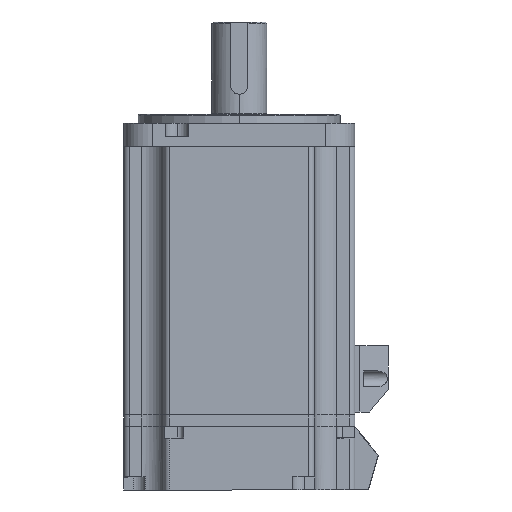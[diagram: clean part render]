
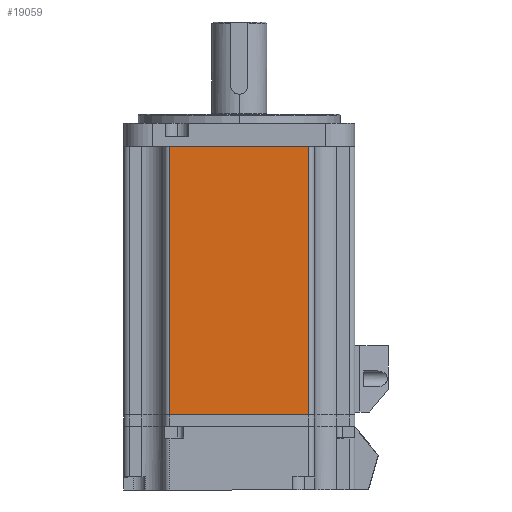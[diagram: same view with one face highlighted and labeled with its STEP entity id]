
A CAD part, left-side view. The second image highlights one B-rep face of the part: STEP entity #19059.
In plain terms, the highlighted planar face has unit normal (-1, 0, 0) as drawn and (1, 0, 0) by its records, which use the part's own axes.
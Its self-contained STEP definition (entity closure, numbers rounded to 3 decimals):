
#45 = DIRECTION ( 'NONE',  ( -1., 0., 0. ) ) ;
#289 = ORIENTED_EDGE ( 'NONE', *, *, #19615, .F. ) ;
#584 = CARTESIAN_POINT ( 'NONE',  ( 40., 93., 24. ) ) ;
#1748 = FACE_OUTER_BOUND ( 'NONE', #17727, .T. ) ;
#2135 = VECTOR ( 'NONE', #9735, 1000. ) ;
#2346 = ORIENTED_EDGE ( 'NONE', *, *, #13956, .T. ) ;
#2833 = CARTESIAN_POINT ( 'NONE',  ( 40., 93., -24. ) ) ;
#3254 = EDGE_CURVE ( 'NONE', #9387, #14978, #9504, .T. ) ;
#3778 = DIRECTION ( 'NONE',  ( 0., 0., 1. ) ) ;
#4850 = CARTESIAN_POINT ( 'NONE',  ( 40., 93., 24. ) ) ;
#5170 = ORIENTED_EDGE ( 'NONE', *, *, #3254, .T. ) ;
#5476 = CARTESIAN_POINT ( 'NONE',  ( 40., 93., 24. ) ) ;
#5478 = ORIENTED_EDGE ( 'NONE', *, *, #18719, .F. ) ;
#6785 = LINE ( 'NONE', #14002, #14025 ) ;
#7591 = CARTESIAN_POINT ( 'NONE',  ( 40., 0., 24. ) ) ;
#8999 = AXIS2_PLACEMENT_3D ( 'NONE', #5476, #45, #3778 ) ;
#9387 = VERTEX_POINT ( 'NONE', #17524 ) ;
#9504 = LINE ( 'NONE', #7591, #20099 ) ;
#9735 = DIRECTION ( 'NONE',  ( 0., -1., 0. ) ) ;
#10607 = DIRECTION ( 'NONE',  ( 0., 0., -1. ) ) ;
#13956 = EDGE_CURVE ( 'NONE', #16249, #9387, #21274, .T. ) ;
#14002 = CARTESIAN_POINT ( 'NONE',  ( 40., 93., 24. ) ) ;
#14025 = VECTOR ( 'NONE', #10607, 1000. ) ;
#14129 = DIRECTION ( 'NONE',  ( 0., 0., -1. ) ) ;
#14978 = VERTEX_POINT ( 'NONE', #21920 ) ;
#16249 = VERTEX_POINT ( 'NONE', #4850 ) ;
#17524 = CARTESIAN_POINT ( 'NONE',  ( 40., 0., 24. ) ) ;
#17727 = EDGE_LOOP ( 'NONE', ( #5170, #289, #5478, #2346 ) ) ;
#17780 = DIRECTION ( 'NONE',  ( 0., -1., 0. ) ) ;
#17848 = VERTEX_POINT ( 'NONE', #18168 ) ;
#18168 = CARTESIAN_POINT ( 'NONE',  ( 40., 93., -24. ) ) ;
#18319 = LINE ( 'NONE', #2833, #2135 ) ;
#18719 = EDGE_CURVE ( 'NONE', #16249, #17848, #6785, .T. ) ;
#18862 = VECTOR ( 'NONE', #17780, 1000. ) ;
#19059 = ADVANCED_FACE ( 'NONE', ( #1748 ), #21079, .F. ) ;
#19615 = EDGE_CURVE ( 'NONE', #17848, #14978, #18319, .T. ) ;
#20099 = VECTOR ( 'NONE', #14129, 1000. ) ;
#21079 = PLANE ( 'NONE',  #8999 ) ;
#21274 = LINE ( 'NONE', #584, #18862 ) ;
#21920 = CARTESIAN_POINT ( 'NONE',  ( 40., 0., -24. ) ) ;
